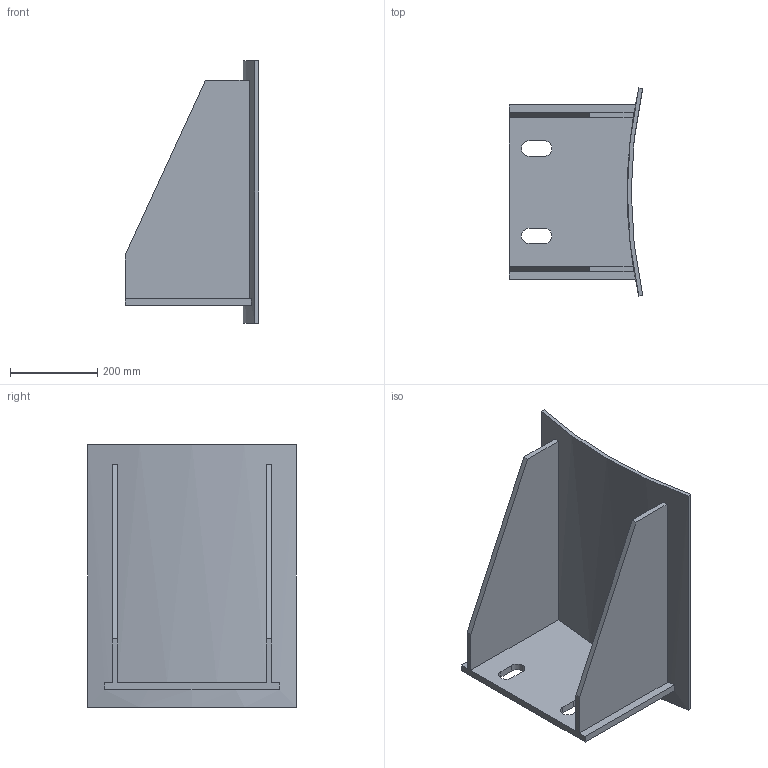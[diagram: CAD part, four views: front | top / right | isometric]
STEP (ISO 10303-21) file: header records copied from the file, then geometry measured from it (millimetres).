
FILE_DESCRIPTION(/* description */ (''),/* implementation_level */ '2;1');
FILE_NAME(/* name */ 'C:\Users\D\Documents\Inventor\HP\JPI\竪型容器用ラグサポート\軽荷重用ラグサポート Light-duty lug support\ld-lug-support-d2150.stp',/* time_stamp */ '2026-02-05T16:55:55+09:00',/* author */ ('D'),/* organization */ (''),/* preprocessor_version */ 'ST-DEVELOPER v18',/* originating_system */ 'Autodesk Inventor 2020',/* authorisation */ '');
FILE_SCHEMA (('AUTOMOTIVE_DESIGN { 1 0 10303 214 3 1 1 }'));
Length unit declared in the file: millimetre
Products named in the file (1): light-duty lug support
Bounding box: 305.03 x 476.15 x 600 mm (x, y, z)
Volume: 6798345.9 mm3; surface area: 1260664.2 mm2
Topology: 1 solids, 1 shells, 31 faces, 80 edges, 52 vertices
Faces by surface type: plane 25, cylinder 6
Entity records: 1001 total; most frequent: CARTESIAN_POINT 166, ORIENTED_EDGE 164, DIRECTION 162, EDGE_CURVE 82, LINE 66, VECTOR 66, VERTEX_POINT 52, AXIS2_PLACEMENT_3D 48
